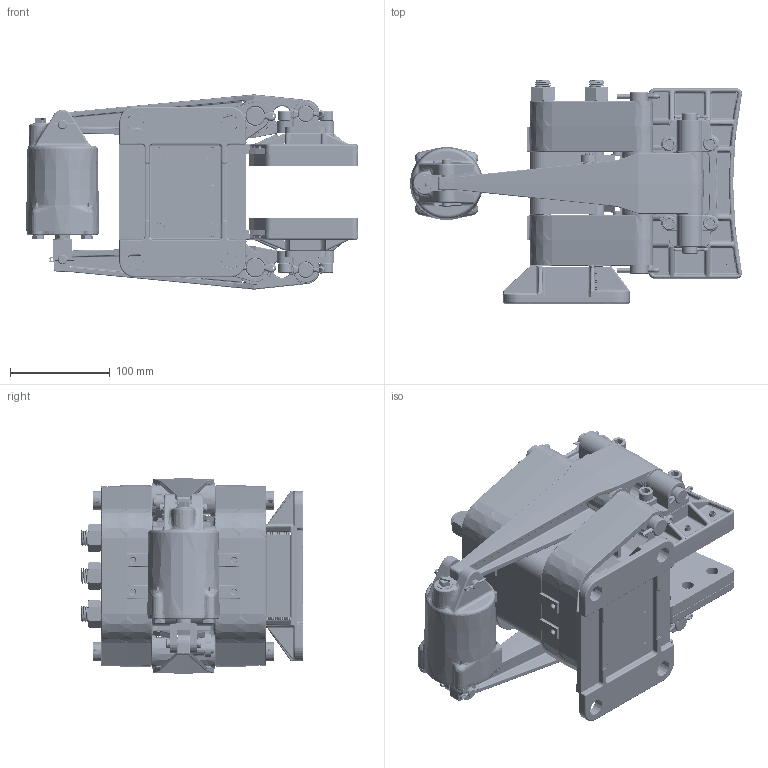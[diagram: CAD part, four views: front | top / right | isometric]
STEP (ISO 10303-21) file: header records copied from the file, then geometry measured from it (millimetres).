
FILE_DESCRIPTION (( 'STEP AP203' ), '1' );
FILE_NAME ('5021-H1_rev0.STEP', '2025-11-10T18:09:41', ( '' ), ( '' ), 'SwSTEP 2.0', 'SolidWorks 2023', '' );
FILE_SCHEMA (( 'CONFIG_CONTROL_DESIGN' ));
Products named in the file (1): 5021-H1_rev0
Bounding box: 333.64 x 224.03 x 196.3 mm (x, y, z)
Surface area: 630439.5 mm2 (no closed solid volume)
Topology: 0 solids, 126 shells, 3294 faces, 10008 edges, 6540 vertices
Faces by surface type: cylinder 1182, plane 791, bspline 610, cone 459, torus 238, sphere 14
Entity records: 154883 total; most frequent: CARTESIAN_POINT 75454, ORIENTED_EDGE 16541, DIRECTION 15186, EDGE_CURVE 9914, VERTEX_POINT 6540, AXIS2_PLACEMENT_3D 5865, EDGE_LOOP 3576, VECTOR 3456
